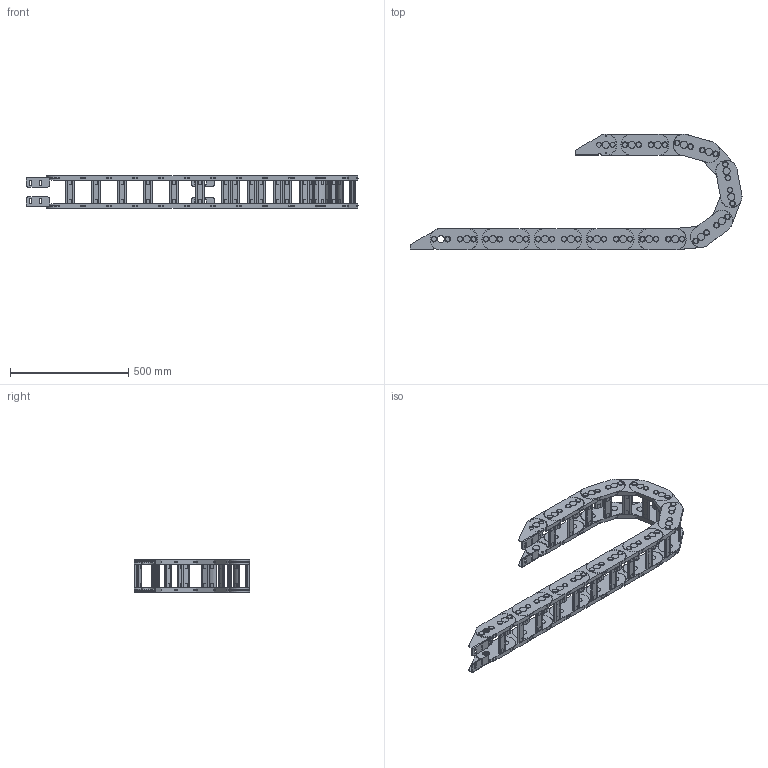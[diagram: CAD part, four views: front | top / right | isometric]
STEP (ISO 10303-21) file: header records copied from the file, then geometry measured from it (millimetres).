
FILE_DESCRIPTION((''),'2;1');
FILE_NAME('GD-65-R200_ASM','2022-07-05T21:01:30',('admin'),(''),'CREO PARAMETRIC BY PTC INC, 2021164','CREO PARAMETRIC BY PTC INC, 2021164','');
FILE_SCHEMA(('CONFIG_CONTROL_DESIGN','GEOMETRIC_VALIDATION_PROPERTIES_MIM'));
Length unit declared in the file: millimetre
Products named in the file (5): 65-R150; 65-R150-1; TLT-1; TLT-2; GD-65-R200_ASM
Assembly tree (20 placements, depth 2):
  GD-65-R200_ASM
    65-R150  x9
    65-R150-1  x9
    TLT-1
    TLT-2
Bounding box: 1402 x 488.59 x 140.3 mm (x, y, z)
Volume: 7945755.4 mm3; surface area: 2409283 mm2
Topology: 76 solids, 76 shells, 2332 faces, 6102 edges, 4146 vertices
Faces by surface type: cylinder 1116, plane 1036, cone 180
Entity records: 16191 total; most frequent: DIRECTION 2486, CARTESIAN_POINT 2388, ORIENTED_EDGE 2220, EDGE_CURVE 1110, AXIS2_PLACEMENT_3D 951, VERTEX_POINT 754, PRESENTATION_STYLE_ASSIGNMENT 634, STYLED_ITEM 633
